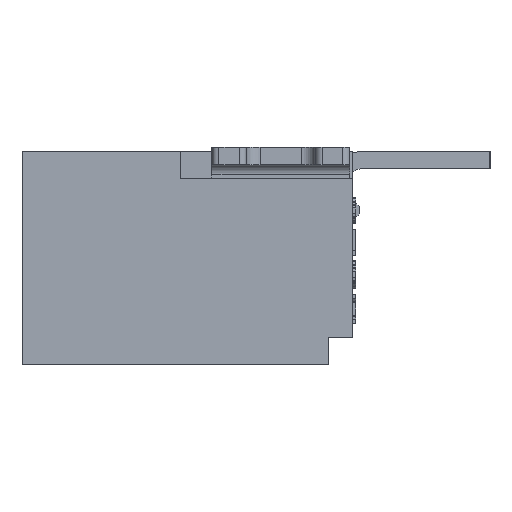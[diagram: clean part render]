
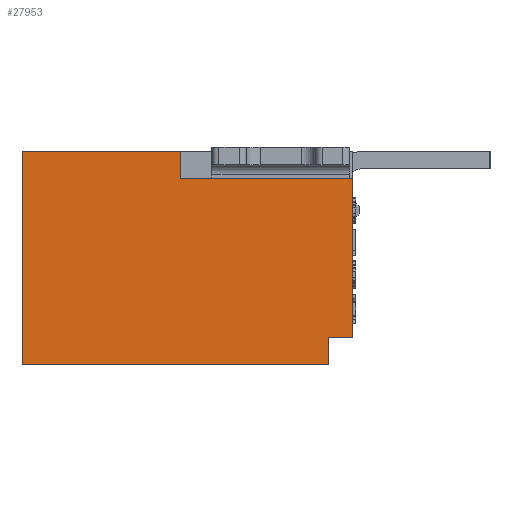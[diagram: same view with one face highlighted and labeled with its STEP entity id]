
A CAD part, left-side view. The second image highlights one B-rep face of the part: STEP entity #27953.
In plain terms, the highlighted planar face has unit normal (-1, 0, 0).
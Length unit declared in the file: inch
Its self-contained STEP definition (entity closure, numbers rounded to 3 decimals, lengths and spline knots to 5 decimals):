
#877=DIRECTION('',(0.,-1.,0.));
#878=VECTOR('',#877,2.5);
#879=CARTESIAN_POINT('',(-12.1,-2.3,2.7));
#880=LINE('',#879,#878);
#881=DIRECTION('',(0.,0.,-1.));
#882=VECTOR('',#881,2.3);
#883=CARTESIAN_POINT('',(-12.1,-4.8,2.7));
#884=LINE('',#883,#882);
#885=DIRECTION('',(0.,1.,0.));
#886=VECTOR('',#885,0.34999);
#887=CARTESIAN_POINT('',(-12.1,-4.79999,0.4));
#888=LINE('',#887,#886);
#889=DIRECTION('',(0.,0.,-1.));
#890=VECTOR('',#889,0.4);
#891=CARTESIAN_POINT('',(-12.1,-4.45,0.4));
#892=LINE('',#891,#890);
#893=DIRECTION('',(0.,1.,0.));
#894=VECTOR('',#893,4.45);
#895=CARTESIAN_POINT('',(-12.1,-4.45,0.));
#896=LINE('',#895,#894);
#897=DIRECTION('',(0.,0.,1.));
#898=VECTOR('',#897,3.1);
#899=CARTESIAN_POINT('',(-12.1,0.,0.));
#900=LINE('',#899,#898);
#901=DIRECTION('',(0.,-1.,0.));
#902=VECTOR('',#901,2.3);
#903=CARTESIAN_POINT('',(-12.1,0.,3.1));
#904=LINE('',#903,#902);
#10083=DIRECTION('',(0.,0.,1.));
#10084=VECTOR('',#10083,0.4);
#10085=CARTESIAN_POINT('',(-12.1,-2.3,2.7));
#10086=LINE('',#10085,#10084);
#20742=CARTESIAN_POINT('',(-12.1,-4.45,0.));
#20744=VERTEX_POINT('',#20742);
#20745=CARTESIAN_POINT('',(-12.1,-4.45,0.4));
#20746=VERTEX_POINT('',#20745);
#21001=CARTESIAN_POINT('',(-12.1,0.,0.));
#21003=VERTEX_POINT('',#21001);
#21007=CARTESIAN_POINT('',(-12.1,0.,3.1));
#21008=VERTEX_POINT('',#21007);
#22039=CARTESIAN_POINT('',(-12.1,-4.79999,0.4));
#22040=VERTEX_POINT('',#22039);
#22041=CARTESIAN_POINT('',(-12.1,-2.3,2.7));
#22042=CARTESIAN_POINT('',(-12.1,-4.8,2.7));
#22043=VERTEX_POINT('',#22041);
#22044=VERTEX_POINT('',#22042);
#22045=CARTESIAN_POINT('',(-12.1,-2.3,3.1));
#22046=VERTEX_POINT('',#22045);
#27935=CARTESIAN_POINT('',(-12.1,-2.4,1.55));
#27936=DIRECTION('',(1.,0.,0.));
#27937=DIRECTION('',(0.,0.,-1.));
#27938=AXIS2_PLACEMENT_3D('',#27935,#27936,#27937);
#27939=PLANE('',#27938);
#27940=ORIENTED_EDGE('',*,*,#27922,.T.);
#27941=ORIENTED_EDGE('',*,*,#27657,.T.);
#27943=ORIENTED_EDGE('',*,*,#27942,.T.);
#27944=ORIENTED_EDGE('',*,*,#27159,.T.);
#27945=ORIENTED_EDGE('',*,*,#27430,.T.);
#27946=ORIENTED_EDGE('',*,*,#27448,.T.);
#27948=ORIENTED_EDGE('',*,*,#27947,.T.);
#27950=ORIENTED_EDGE('',*,*,#27949,.F.);
#27951=EDGE_LOOP('',(#27940,#27941,#27943,#27944,#27945,#27946,#27948,#27950));
#27952=FACE_OUTER_BOUND('',#27951,.F.);
#27159=EDGE_CURVE('',#20746,#20744,#892,.T.);
#27430=EDGE_CURVE('',#20744,#21003,#896,.T.);
#27448=EDGE_CURVE('',#21003,#21008,#900,.T.);
#27657=EDGE_CURVE('',#22044,#22040,#884,.T.);
#27922=EDGE_CURVE('',#22043,#22044,#880,.T.);
#27942=EDGE_CURVE('',#22040,#20746,#888,.T.);
#27947=EDGE_CURVE('',#21008,#22046,#904,.T.);
#27949=EDGE_CURVE('',#22043,#22046,#10086,.T.);
#27953=ADVANCED_FACE('',(#27952),#27939,.F.);
